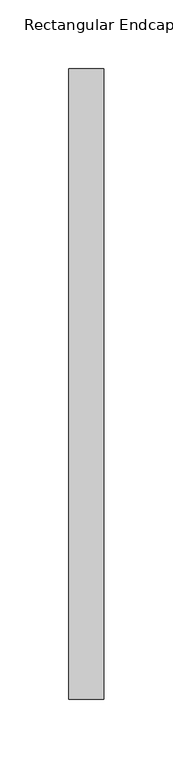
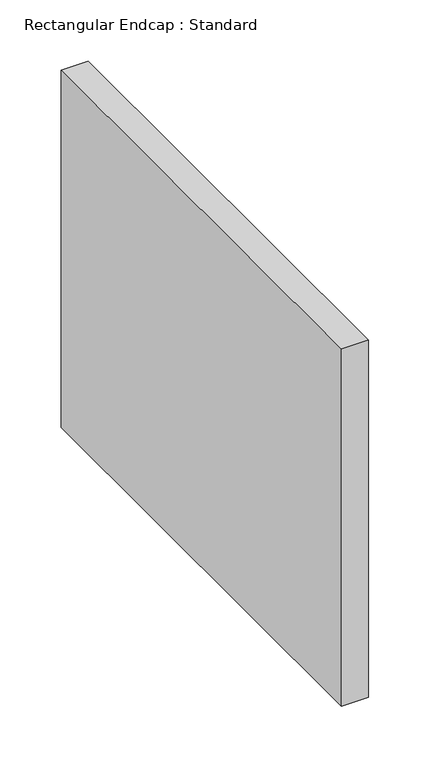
"""IFC4 building model written with IfcOpenShell, lengths in millimetres: duct fitting geometry, Rectangular Endcap : Standard."""

from ifc_helpers import new_model, si_unit, frame, origin, place, context, project, spatial, polyline, outline, extrude, source, transform, mapped, element, save


def rectangular_endcap_standard_943f7e42(model_context):
    return source(origin(), model_context, "Body", "SweptSolid", [
        extrude(outline(polyline([(0.0, -228.6), (0.0, 228.6), (25.4, 228.6), (25.4, -228.6), (0.0, -228.6)])), frame((0.0, 0.0, -177.8), z_axis=(0.0, 0.0, 1.0), x_axis=(1.0, 0.0, 0.0)), (0.0, 0.0, 1.0), 355.6),
    ])


if __name__ == "__main__":
    model = new_model("IFC4")
    model_context = context("Model", 3, world=origin())
    ifc_project = project(units=[si_unit("LENGTHUNIT", "METRE", prefix="MILLI")], contexts=[model_context])
    site = spatial("IfcSite", under=ifc_project)
    building = spatial("IfcBuilding", under=site)
    placement = place(None, origin())
    rectangular_endcap_standard_shape = rectangular_endcap_standard_943f7e42(model_context)
    element("IfcDuctFitting", 1, ObjectType="Rectangular Endcap : Standard", at=placement, inside=building, context=model_context, shape_type="MappedRepresentation", body=[
        mapped(rectangular_endcap_standard_shape, transform((0.0, 0.0, 0.0), x_axis=(1.0, 0.0, 0.0), y_axis=(0.0, 1.0, 0.0), z_axis=(0.0, 0.0, 1.0))),
    ])
    save(model, "model.ifc")
